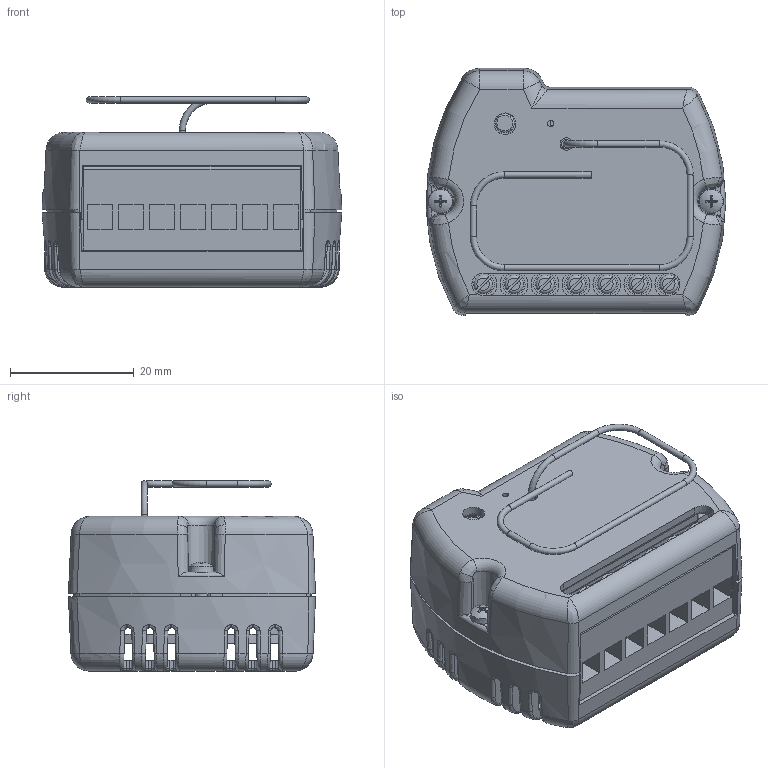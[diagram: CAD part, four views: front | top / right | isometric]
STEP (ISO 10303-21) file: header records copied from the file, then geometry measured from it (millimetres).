
FILE_DESCRIPTION(/* description */ (''),/* implementation_level */ '2;1');
FILE_NAME(/* name */ '',/* time_stamp */ '2024-09-13T08:50:14+02:00',/* author */ ('micha'),/* organization */ (''),/* preprocessor_version */ 'ST-DEVELOPER v20',/* originating_system */ 'Autodesk Inventor 2024',/* authorisation */ '');
FILE_SCHEMA (('AUTOMOTIVE_DESIGN { 1 0 10303 214 3 1 1 }'));
Products named in the file (131): Przekaźnik do puszki1; Plytka dolna1; Łaczka; SWITCH 6X6X3,2; Gora_cewka3; Spod_cewka3; ST-1011_2_1_E; PCB Component; Board; 100n; 10k; RFM22B_S1_D; Body3; Body4; Body5; Body6; Body7; Body8; Body9; Body10; Body11; Body12; Body13; Body14; Body15; Body16; Body17; Body18; Body19; Body20; Body21; Body22; Body23; Body24; Body25; Body26; Body27; Body28; Body29; Body30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
Assembly tree (145 placements, depth 5):
  Przekaźnik do puszki1
    Plytka dolna1
    Łaczka
    SWITCH 6X6X3,2
    Gora_cewka3
    Spod_cewka3
    ST-1011_2_1_E
      PCB Component
        Board
        100n  x4
        10k  x3
        RFM22B_S1_D
          Body3
          Body4
          Body5
          Body6
          Body7
          Body8
          Body9
          Body10
          Body11
          Body12
          Body13
          Body14
          Body15
          Body16
          Body17
          Body18
          Body19
          Body20
          Body21
          Body22
          Body23
          Body24
          Body25
          Body26
          Body27
          Body28
          Body29
          Body30
          Body31
          Body32
          Body33
          Body34
          Body35
          Body36
          Body37
          Body38
          Body39
          Body40
          Body41
          Body42
          Body43
          Body44
          Body45
          Body46
          Body47
          Body48
          Body49
          Body50
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Bounding box: 48.38 x 39.9 x 30.74 mm (x, y, z)
Volume: 18168.1 mm3; surface area: 23133 mm2
Topology: 143 solids, 144 shells, 3781 faces, 10431 edges, 8209 vertices
Faces by surface type: plane 1802, cylinder 1020, sphere 382, bspline 335, torus 121, cone 121
Full cylindrical faces by diameter (mm): 0.4 x4, 0.406 x11, 0.5 x74, 0.6 x1, 0.9 x6, 1 x17, 1.5 x1, 2.2 x2, 3.1 x1, 3.5 x1, 3.6 x7, 4.5 x7
Entity records: 132615 total; most frequent: CARTESIAN_POINT 34829, DIRECTION 19207, ORIENTED_EDGE 17446, EDGE_CURVE 8725, AXIS2_PLACEMENT_3D 7039, VERTEX_POINT 5411, LINE 5129, VECTOR 5129
